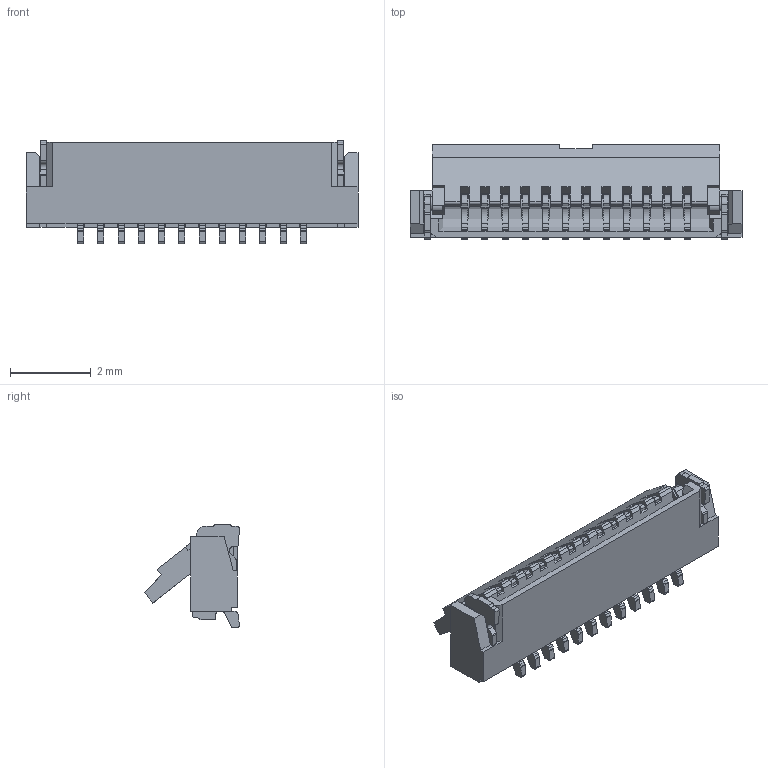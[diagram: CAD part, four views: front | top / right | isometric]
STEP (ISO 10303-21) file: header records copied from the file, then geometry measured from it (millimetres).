
FILE_DESCRIPTION((''),'2;1');
FILE_NAME('S-51536-040XX-001','2011-06-10T',('12111512'),(''),'PRO/ENGINEER BY PARAMETRIC TECHNOLOGY CORPORATION, 2009360','PRO/ENGINEER BY PARAMETRIC TECHNOLOGY CORPORATION, 2009360','');
FILE_SCHEMA(('CONFIG_CONTROL_DESIGN'));
Length unit declared in the file: millimetre
Products named in the file (1): S-51536-040XX-001
Bounding box: 8.2 x 2.34 x 2.55 mm (x, y, z)
Volume: 17.1 mm3; surface area: 164.1 mm2
Topology: 1 solids, 1 shells, 1088 faces, 3498 edges, 2300 vertices
Faces by surface type: plane 715, cylinder 373
Entity records: 38848 total; most frequent: CARTESIAN_POINT 7222, ORIENTED_EDGE 6996, DIRECTION 6406, EDGE_CURVE 3498, VECTOR 2646, LINE 2646, VERTEX_POINT 2300, AXIS2_PLACEMENT_3D 1880
